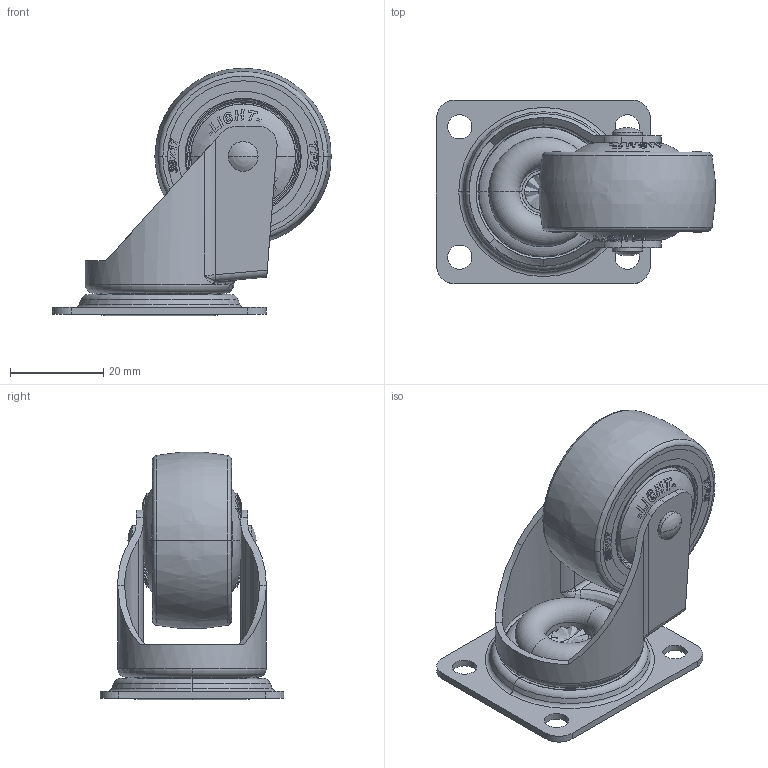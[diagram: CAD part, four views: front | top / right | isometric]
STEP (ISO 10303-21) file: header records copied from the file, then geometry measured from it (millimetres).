
FILE_DESCRIPTION((''),'2;1');
FILE_NAME('815-HD_ASM','2021-12-17T',('Lenovo'),(''),'PRO/ENGINEER BY PARAMETRIC TECHNOLOGY CORPORATION, 2010280','PRO/ENGINEER BY PARAMETRIC TECHNOLOGY CORPORATION, 2010280','');
FILE_SCHEMA(('CONFIG_CONTROL_DESIGN'));
Length unit declared in the file: millimetre
Products named in the file (13): 815-DB_; 815-GZS_; 815-SZJ_; 815-GZX_; 815-XBP_; 815-WD_; 815-LZMD_; 20-38-X__; 02-40__; 608__; 08-38-F_; 08-1-38___ASM; 815-HD_ASM
Assembly tree (13 placements, depth 3):
  815-HD_ASM
    815-DB_
    815-GZS_
    815-SZJ_
    815-GZX_
    815-XBP_
    815-WD_
    815-LZMD_
    08-1-38___ASM
      20-38-X__
      02-40__
      608__
      08-38-F_  x2
Bounding box: 60 x 39.5 x 53.17 mm (x, y, z)
Volume: 24444.2 mm3; surface area: 41641.7 mm2
Topology: 50 solids, 55 shells, 1011 faces, 2629 edges, 1626 vertices
Faces by surface type: plane 449, extrusion 170, cylinder 100, torus 90, sphere 82, bspline 70, cone 50
Entity records: 28495 total; most frequent: CARTESIAN_POINT 8492, ORIENTED_EDGE 4166, DIRECTION 3768, EDGE_CURVE 2091, VERTEX_POINT 1378, AXIS2_PLACEMENT_3D 1351, VECTOR 1066, EDGE_LOOP 963
